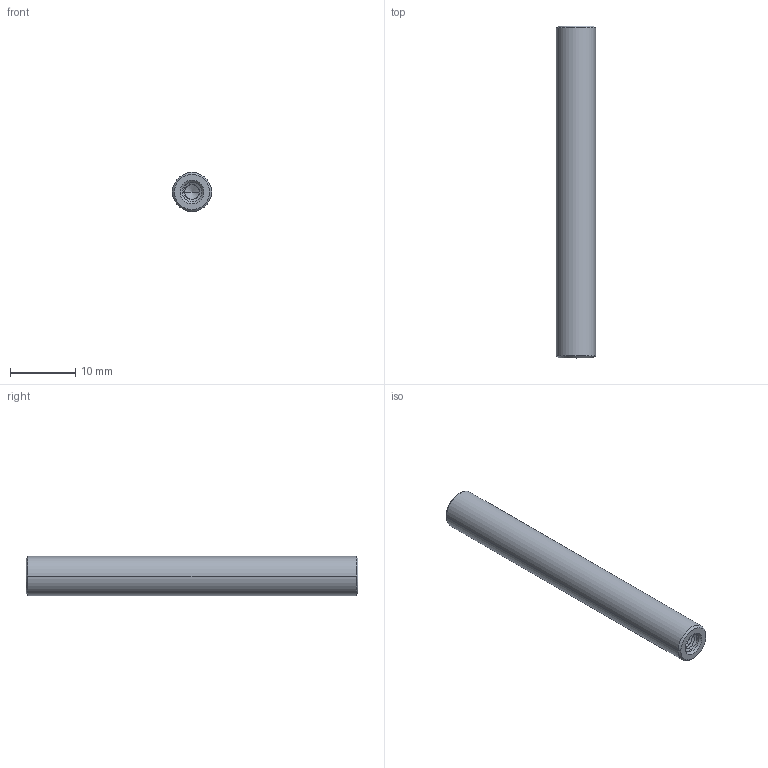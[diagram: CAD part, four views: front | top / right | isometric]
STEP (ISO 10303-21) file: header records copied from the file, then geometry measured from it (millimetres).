
FILE_DESCRIPTION((''),'2;1');
FILE_NAME('PCM-S50_8','2025-02-13T14:03:48',('R&D'),(''),'CREO PARAMETRIC BY PTC INC, 2021063','CREO PARAMETRIC BY PTC INC, 2021063','');
FILE_SCHEMA(('CONFIG_CONTROL_DESIGN'));
Length unit declared in the file: millimetre
Products named in the file (1): PCM-S50_8
Bounding box: 6 x 50.8 x 6 mm (x, y, z)
Volume: 1343.1 mm3; surface area: 1216.6 mm2
Topology: 1 solids, 1 shells, 93 faces, 253 edges, 160 vertices
Faces by surface type: cylinder 55, bspline 24, cone 12, plane 2
Entity records: 7099 total; most frequent: CARTESIAN_POINT 5078, ORIENTED_EDGE 498, DIRECTION 266, EDGE_CURVE 249, VERTEX_POINT 160, B_SPLINE_CURVE_WITH_KNOTS 141, EDGE_LOOP 95, FACE_OUTER_BOUND 93
